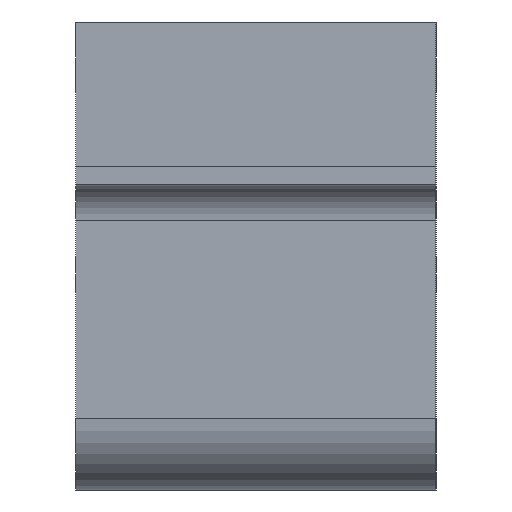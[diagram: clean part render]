
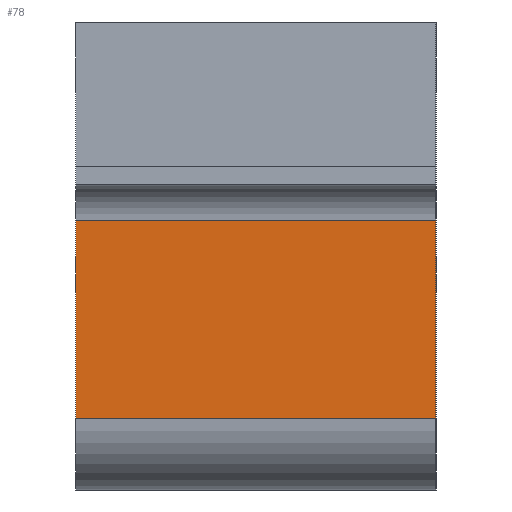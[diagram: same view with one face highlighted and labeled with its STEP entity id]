
A CAD part, left-side view. The second image highlights one B-rep face of the part: STEP entity #78.
In plain terms, the highlighted planar face has unit normal (-1, 0, 0).
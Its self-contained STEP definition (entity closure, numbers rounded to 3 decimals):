
#78=ADVANCED_FACE('',(#126),#108,.F.);
#108=PLANE('',#629);
#126=FACE_OUTER_BOUND('',#146,.T.);
#146=EDGE_LOOP('',(#238,#239,#240,#241));
#238=ORIENTED_EDGE('',*,*,#453,.T.);
#239=ORIENTED_EDGE('',*,*,#454,.T.);
#240=ORIENTED_EDGE('',*,*,#440,.F.);
#241=ORIENTED_EDGE('',*,*,#455,.T.);
#384=VERTEX_POINT('',#868);
#385=VERTEX_POINT('',#870);
#396=VERTEX_POINT('',#896);
#397=VERTEX_POINT('',#897);
#440=EDGE_CURVE('',#384,#385,#515,.T.);
#453=EDGE_CURVE('',#396,#397,#525,.T.);
#454=EDGE_CURVE('',#397,#385,#526,.T.);
#455=EDGE_CURVE('',#384,#396,#527,.T.);
#515=LINE('',#869,#571);
#525=LINE('',#895,#581);
#526=LINE('',#898,#582);
#527=LINE('',#899,#583);
#571=VECTOR('',#694,1.);
#581=VECTOR('',#714,1.);
#582=VECTOR('',#715,1.);
#583=VECTOR('',#716,1.);
#629=AXIS2_PLACEMENT_3D('',#900,#717,#718);
#694=DIRECTION('',(0.,0.,1.));
#714=DIRECTION('',(0.,0.,1.));
#715=DIRECTION('',(0.,1.,0.));
#716=DIRECTION('',(0.,-1.,0.));
#717=DIRECTION('',(1.,0.,0.));
#718=DIRECTION('',(0.,0.,-1.));
#868=CARTESIAN_POINT('',(401.,266.,369.));
#869=CARTESIAN_POINT('',(401.,266.,376.));
#870=CARTESIAN_POINT('',(401.,266.,374.5));
#895=CARTESIAN_POINT('',(401.,256.,376.));
#896=CARTESIAN_POINT('',(401.,256.,369.));
#897=CARTESIAN_POINT('',(401.,256.,374.5));
#898=CARTESIAN_POINT('',(401.,266.,374.5));
#899=CARTESIAN_POINT('',(401.,256.,369.));
#900=CARTESIAN_POINT('',(401.,256.,376.));
